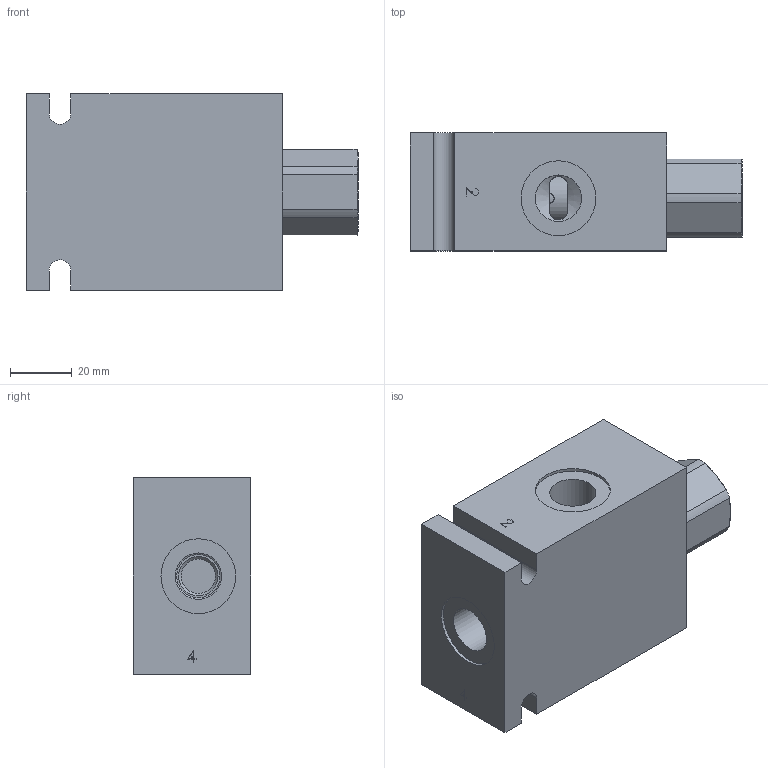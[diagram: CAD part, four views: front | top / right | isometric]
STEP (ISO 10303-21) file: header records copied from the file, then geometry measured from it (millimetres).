
FILE_DESCRIPTION( ( 'Unknown' ), '1' );
FILE_NAME( 'G:/Graphic Design/Graphic Design 2/Data Sheets/PRESSURE CONTROLS/2_STEP/Sequence Valves/D-DGPTC00-B4.stp', 'Unknown', ( 'Unknown' ), ( 'Unknown' ), 'PSStep 16.0.42', 'Unknown', ' ' );
FILE_SCHEMA( ( 'AUTOMOTIVE_DESIGN { 1 0 10303 214 1 1 1 1 }' ) );
Length unit declared in the file: millimetre
Products named in the file (14): DGPTC00; DGPTC00-3D Full1; DGPTC00-3D Full2; DGPTC00-3D Full3; DGPTC00-3D Full4; DGPTC00-3D Full5; DGPTC00-3D Full6; DGPTC00-3D Full7; DGPTC00-3D Full8; DGPTC00-3D Full9; DGPTC00-3D Full10; DGPTC00-3D Full11; Assem1; B-DDGB4
Assembly tree (13 placements, depth 3):
  Assem1
    B-DDGB4
    DGPTC00
      DGPTC00-3D Full1
      DGPTC00-3D Full2
      DGPTC00-3D Full3
      DGPTC00-3D Full4
      DGPTC00-3D Full5
      DGPTC00-3D Full6
      DGPTC00-3D Full7
      DGPTC00-3D Full8
      DGPTC00-3D Full9
      DGPTC00-3D Full10
      DGPTC00-3D Full11
Bounding box: 107.35 x 38.1 x 63.5 mm (x, y, z)
Surface area: 39995.2 mm2 (no closed solid volume)
Topology: 0 solids, 286 shells, 286 faces, 1173 edges, 1064 vertices
Faces by surface type: plane 139, cylinder 99, cone 42, torus 6
Full cylindrical faces by diameter (mm): 0.2 x4, 3.175 x18, 11.11 x1, 12.992 x1, 13.043 x2, 14 x2, 14.275 x1, 14.592 x1, 14.63 x2, 15 x8, 15.735 x2, 15.773 x2, 15.875 x2, 15.9 x1, 16.167 x1, 16.218 x2, 17.323 x3, 17.374 x2, 17.501 x1, 18.91 x2, 18.948 x2, 19.075 x1, 19.622 x1, 20.262 x2, 24.2 x4, 30.175 x1
Entity records: 17388 total; most frequent: CARTESIAN_POINT 7057, DIRECTION 1452, VERTEX_POINT 1024, ORIENTED_EDGE 1020, EDGE_CURVE 1020, AXIS2_PLACEMENT_3D 595, FACE_BOUND 448, EDGE_LOOP 444
